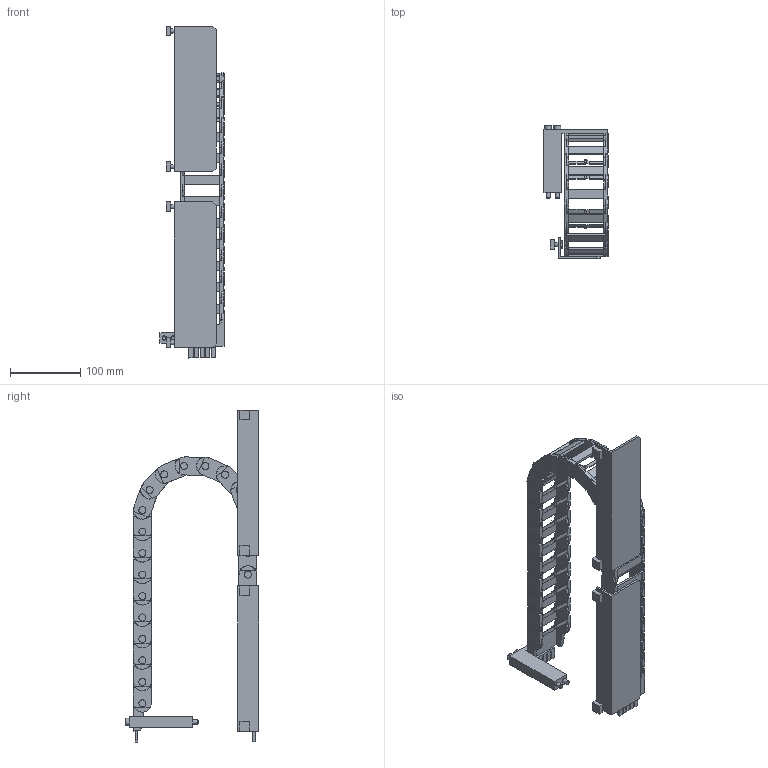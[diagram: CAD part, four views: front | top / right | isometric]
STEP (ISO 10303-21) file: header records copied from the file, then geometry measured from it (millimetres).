
FILE_DESCRIPTION( ( 'STEP AP214' ), '1' );
FILE_NAME( 'U:/Etudes/Top Solid/BIBLIO 3D AVM/STEP/STEP2007LINMOT/8319336.step', '2007-06-07T08:48:56', ( ' ' ), ( ' ' ), 'XStep 1.0', ' ', ' ' );
FILE_SCHEMA( ( 'automotive_design' ) );
Length unit declared in the file: metre
Products named in the file (28): 1; 2; 3; 4; 5; 6; 7; 8; 9; 10; 11; 12; 13; 14; 15; 16; 17; 18; 19; 20; 21; 22; 23; 24; 25; 26; 27; 28
Bounding box: 91 x 190 x 472 mm (x, y, z)
Volume: 458950.6 mm3; surface area: 322781.3 mm2
Topology: 28 solids, 30 shells, 2156 faces, 6067 edges, 4045 vertices
Faces by surface type: plane 1635, cylinder 519, cone 2
Full cylindrical faces by diameter (mm): 6 x12, 6.2 x4, 6.5 x2, 10 x2
Entity records: 87248 total; most frequent: CARTESIAN_POINT 12370, ORIENTED_EDGE 12054, DIRECTION 11827, EDGE_CURVE 6027, LINE 4587, VECTOR 4587, VERTEX_POINT 4027, AXIS2_PLACEMENT_3D 3620
